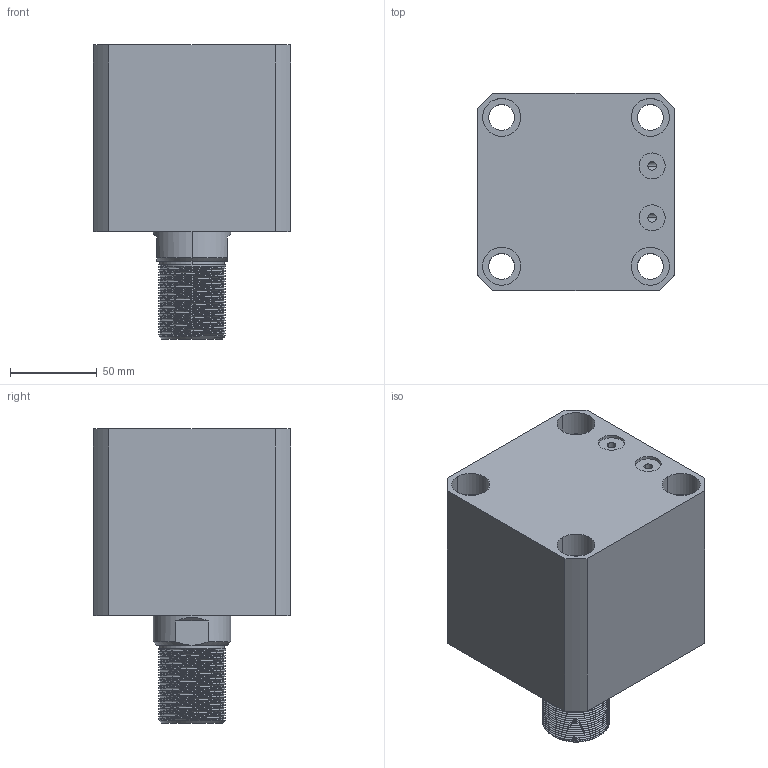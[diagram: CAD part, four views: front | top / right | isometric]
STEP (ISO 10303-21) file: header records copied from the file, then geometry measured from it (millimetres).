
FILE_DESCRIPTION (( 'STEP AP214' ), '1' );
FILE_NAME ('chtb-sdmb80x30w_asm.STEP', '2018-05-26T02:37:46', ( 'Windows' ), ( 'Microsoft' ), 'SwSTEP 2.0', 'SolidWorks 2015', '' );
FILE_SCHEMA (( 'AUTOMOTIVE_DESIGN' ));
Length unit declared in the file: millimetre
Products named in the file (4): CHTB-SDMB80X30NBT; CHTB-SD80X30WHSG; CHTB-SD80QG; chtb-sdmb80x30w_asm
Assembly tree (3 placements, depth 2):
  chtb-sdmb80x30w_asm
    CHTB-SD80QG
    CHTB-SD80X30WHSG
    CHTB-SDMB80X30NBT
Bounding box: 114 x 114 x 170 mm (x, y, z)
Volume: 1241543.8 mm3; surface area: 187309.1 mm2
Topology: 3 solids, 3 shells, 251 faces, 695 edges, 466 vertices
Faces by surface type: cylinder 163, plane 38, torus 18, bspline 16, cone 16
Entity records: 20297 total; most frequent: CARTESIAN_POINT 14321, ORIENTED_EDGE 1382, DIRECTION 1068, EDGE_CURVE 691, VERTEX_POINT 466, AXIS2_PLACEMENT_3D 433, EDGE_LOOP 289, FACE_OUTER_BOUND 251
